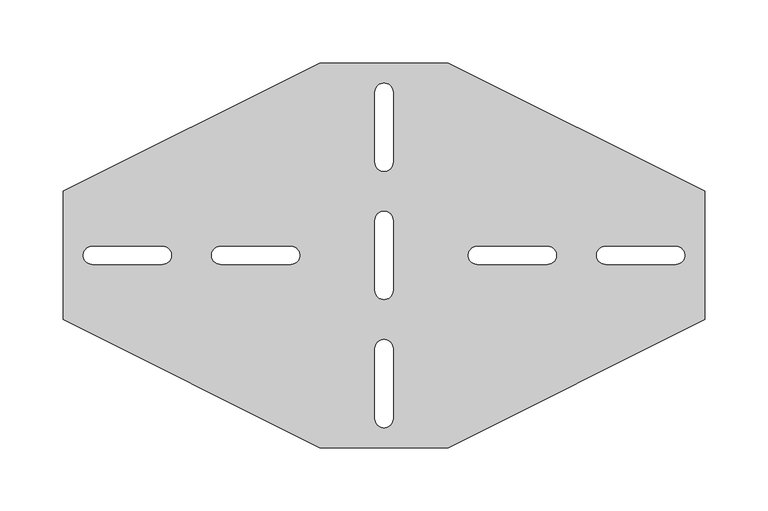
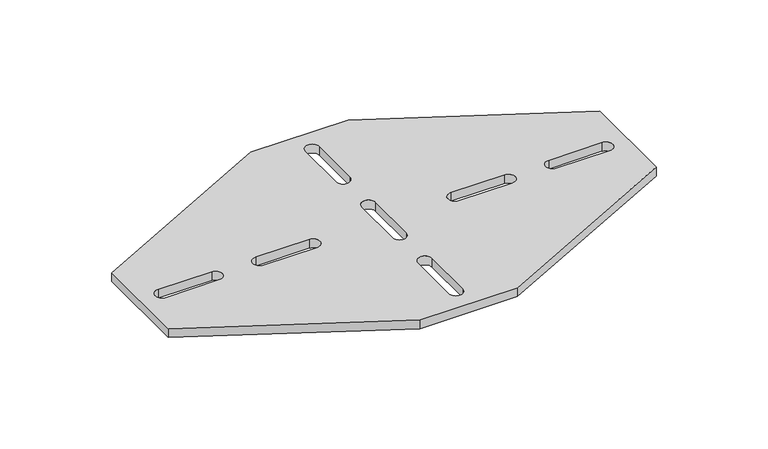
"""IFC4 building model written with IfcOpenShell, lengths in millimetres: proxy geometry, 14NSF-P54 : 14NSF-P54."""

from ifc_helpers import new_model, si_unit, point, frame_2d, origin, origin_with_axes, place, context, project, spatial, polyline, circle_curve, trimmed, segment, composite_curve, outline, extrude, source, transform, mapped, element, save


def generic_models_957c1ce1(model_context):
    return source(origin(), model_context, "Body", "SweptSolid", [
        extrude(outline(polyline([(50.8, 152.4), (254.0, 50.8), (254.0, -50.8), (50.8, -152.4), (-50.8, -152.4), (-254.0, -50.8), (-254.0, 50.8), (-50.8, 152.4), (50.8, 152.4)]), holes=[composite_curve([segment(polyline([(-7.14375, 129.38125), (-7.14375, 73.81875)]), True, "CONTINUOUS"), segment(trimmed(circle_curve(frame_2d((0.0, 73.81875)), 7.14375), [point((-7.14375, 73.81875))], [point((7.14375, 73.81875))], True, "CARTESIAN"), True, "CONTINUOUS"), segment(polyline([(7.14375, 73.81875), (7.14375, 129.38125)]), True, "CONTINUOUS"), segment(trimmed(circle_curve(frame_2d((0.0, 129.38125)), 7.14375), [point((7.14375, 129.38125))], [point((-7.14375, 129.38125))], True, "CARTESIAN"), True, "CONTINUOUS")], self_intersect=False), composite_curve([segment(polyline([(-7.14375, 27.78125), (-7.14375, -27.78125)]), True, "CONTINUOUS"), segment(trimmed(circle_curve(frame_2d((0.0, -27.78125)), 7.14375), [point((-7.14375, -27.78125))], [point((7.14375, -27.78125))], True, "CARTESIAN"), True, "CONTINUOUS"), segment(polyline([(7.14375, -27.78125), (7.14375, 27.78125)]), True, "CONTINUOUS"), segment(trimmed(circle_curve(frame_2d((0.0, 27.78125)), 7.14375), [point((7.14375, 27.78125))], [point((-7.14375, 27.78125))], True, "CARTESIAN"), True, "CONTINUOUS")], self_intersect=False), composite_curve([segment(polyline([(-7.14375, -73.81875), (-7.14375, -129.38125)]), True, "CONTINUOUS"), segment(trimmed(circle_curve(frame_2d((0.0, -129.38125)), 7.14375), [point((-7.14375, -129.38125))], [point((7.14375, -129.38125))], True, "CARTESIAN"), True, "CONTINUOUS"), segment(polyline([(7.14375, -129.38125), (7.14375, -73.81875)]), True, "CONTINUOUS"), segment(trimmed(circle_curve(frame_2d((0.0, -73.81875)), 7.14375), [point((7.14375, -73.81875))], [point((-7.14375, -73.81875))], True, "CARTESIAN"), True, "CONTINUOUS")], self_intersect=False), composite_curve([segment(polyline([(-230.98125, -7.14375), (-175.41875, -7.14375)]), True, "CONTINUOUS"), segment(trimmed(circle_curve(frame_2d((-175.41875, 0.0)), 7.14375), [point((-175.41875, -7.14375))], [point((-175.41875, 7.14375))], True, "CARTESIAN"), True, "CONTINUOUS"), segment(polyline([(-175.41875, 7.14375), (-230.98125, 7.14375)]), True, "CONTINUOUS"), segment(trimmed(circle_curve(frame_2d((-230.98125, 0.0)), 7.14375), [point((-230.98125, 7.14375))], [point((-230.98125, -7.14375))], True, "CARTESIAN"), True, "CONTINUOUS")], self_intersect=False), composite_curve([segment(polyline([(-129.38125, -7.14375), (-73.81875, -7.14375)]), True, "CONTINUOUS"), segment(trimmed(circle_curve(frame_2d((-73.81875, 0.0)), 7.14375), [point((-73.81875, -7.14375))], [point((-73.81875, 7.14375))], True, "CARTESIAN"), True, "CONTINUOUS"), segment(polyline([(-73.81875, 7.14375), (-129.38125, 7.14375)]), True, "CONTINUOUS"), segment(trimmed(circle_curve(frame_2d((-129.38125, 0.0)), 7.14375), [point((-129.38125, 7.14375))], [point((-129.38125, -7.14375))], True, "CARTESIAN"), True, "CONTINUOUS")], self_intersect=False), composite_curve([segment(polyline([(73.81875, -7.14375), (129.38125, -7.14375)]), True, "CONTINUOUS"), segment(trimmed(circle_curve(frame_2d((129.38125, 0.0)), 7.14375), [point((129.38125, -7.14375))], [point((129.38125, 7.14375))], True, "CARTESIAN"), True, "CONTINUOUS"), segment(polyline([(129.38125, 7.14375), (73.81875, 7.14375)]), True, "CONTINUOUS"), segment(trimmed(circle_curve(frame_2d((73.81875, 0.0)), 7.14375), [point((73.81875, 7.14375))], [point((73.81875, -7.14375))], True, "CARTESIAN"), True, "CONTINUOUS")], self_intersect=False), composite_curve([segment(polyline([(175.41875, -7.14375), (230.98125, -7.14375)]), True, "CONTINUOUS"), segment(trimmed(circle_curve(frame_2d((230.98125, 0.0)), 7.14375), [point((230.98125, -7.14375))], [point((230.98125, 7.14375))], True, "CARTESIAN"), True, "CONTINUOUS"), segment(polyline([(230.98125, 7.14375), (175.41875, 7.14375)]), True, "CONTINUOUS"), segment(trimmed(circle_curve(frame_2d((175.41875, 0.0)), 7.14375), [point((175.41875, 7.14375))], [point((175.41875, -7.14375))], True, "CARTESIAN"), True, "CONTINUOUS")], self_intersect=False)]), origin_with_axes(), (0.0, 0.0, 1.0), 9.525),
    ])


if __name__ == "__main__":
    model = new_model("IFC4")
    model_context = context("Model", 3, world=origin())
    ifc_project = project(units=[si_unit("LENGTHUNIT", "METRE", prefix="MILLI")], contexts=[model_context])
    site = spatial("IfcSite", under=ifc_project)
    building = spatial("IfcBuilding", under=site)
    placement = place(None, origin())
    generic_models_shape = generic_models_957c1ce1(model_context)
    element("IfcBuildingElementProxy", 1, Name="14NSF-P54 : 14NSF-P54", ObjectType="14NSF-P54 : 14NSF-P54", at=placement, inside=building, context=model_context, shape_type="MappedRepresentation", body=[
        mapped(generic_models_shape, transform((0.0, 0.0, 0.0), x_axis=(1.0, 0.0, 0.0), y_axis=(0.0, 1.0, 0.0), z_axis=(0.0, 0.0, 1.0))),
    ])
    save(model, "model.ifc")
